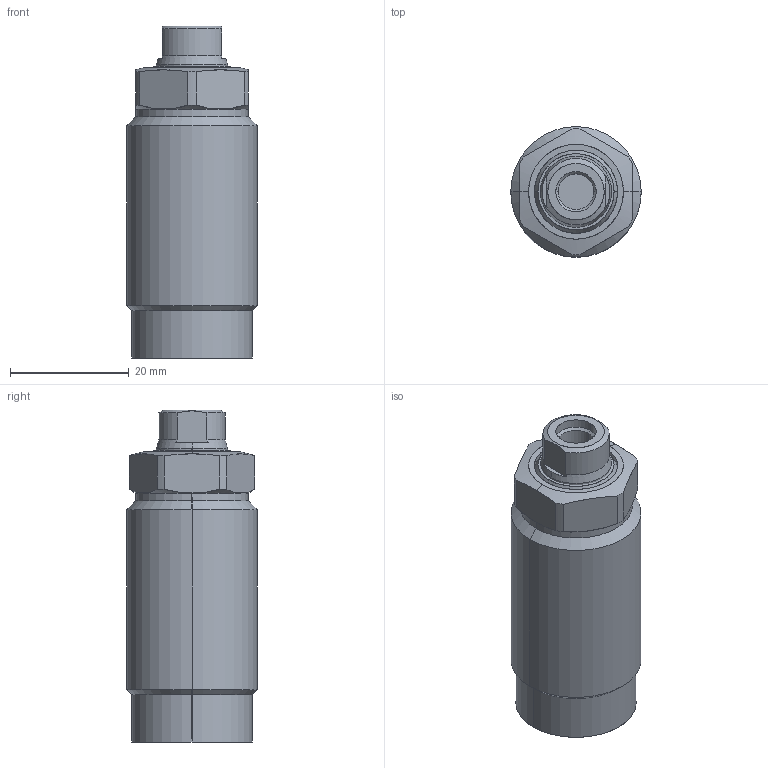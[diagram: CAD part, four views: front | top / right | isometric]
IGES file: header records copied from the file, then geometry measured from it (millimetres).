
Start section: SolidWorks IGES file using analytic representation for surfaces
Global section: file name: D:\abhilash\nijil\cylinder\Clasys1\dp converted\02\pt\03\0102-0203.IGS; native system: SolidWorks 2010; preprocessor: SolidWorks 2010; author: nidheesh; date: 130730.113610; units: millimetre
Bounding box: 22 x 22 x 56 mm (x, y, z)
Surface area: 5239.2 mm2 (no closed solid volume)
Topology: 0 solids, 0 shells, 74 faces, 900 edges, 900 vertices
Faces by surface type: revolution 50, bspline 24
